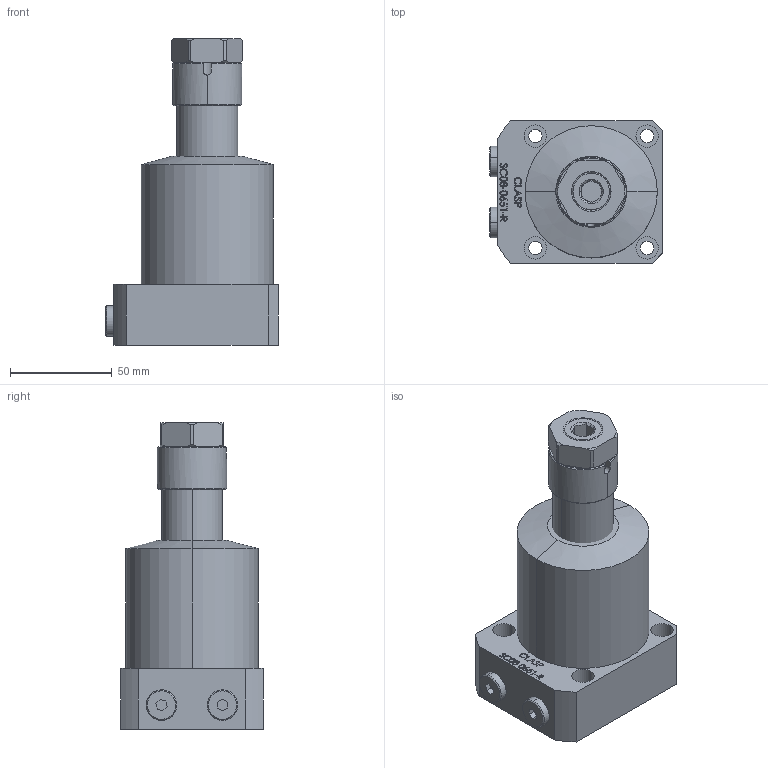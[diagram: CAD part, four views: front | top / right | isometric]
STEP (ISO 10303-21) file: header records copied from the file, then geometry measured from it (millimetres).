
FILE_DESCRIPTION (( 'STEP AP203' ), '1' );
FILE_NAME ('SC08-0651-R.STEP', '2022-07-08T17:19:14', ( '' ), ( '' ), 'SwSTEP 2.0', 'SolidWorks 2017', '' );
FILE_SCHEMA (( 'CONFIG_CONTROL_DESIGN' ));
Length unit declared in the file: millimetre
Products named in the file (6): SC-08-0651-R BODY; SC-08-0651-R-Piston; SC-08-0651-R-05 plug; SC-08-0651-R-04 sleeve; SC-08-0651-R-03-nut; SC08-0651-R
Assembly tree (6 placements, depth 2):
  SC08-0651-R
    SC-08-0651-R BODY
    SC-08-0651-R-Piston
    SC-08-0651-R-05 plug  x2
    SC-08-0651-R-04 sleeve
    SC-08-0651-R-03-nut
Bounding box: 85 x 70 x 151 mm (x, y, z)
Volume: 425238.5 mm3; surface area: 54731 mm2
Topology: 6 solids, 6 shells, 376 faces, 935 edges, 613 vertices
Faces by surface type: plane 160, bspline 111, cylinder 62, cone 41, sphere 2
Entity records: 17855 total; most frequent: CARTESIAN_POINT 9237, ORIENTED_EDGE 1806, DIRECTION 1317, EDGE_CURVE 903, VERTEX_POINT 593, VECTOR 471, LINE 471, AXIS2_PLACEMENT_3D 423
